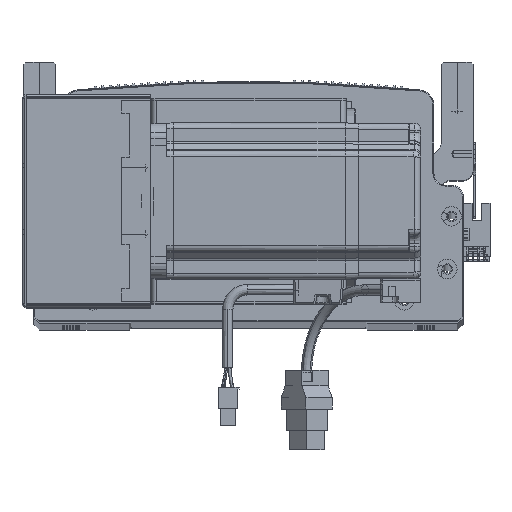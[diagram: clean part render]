
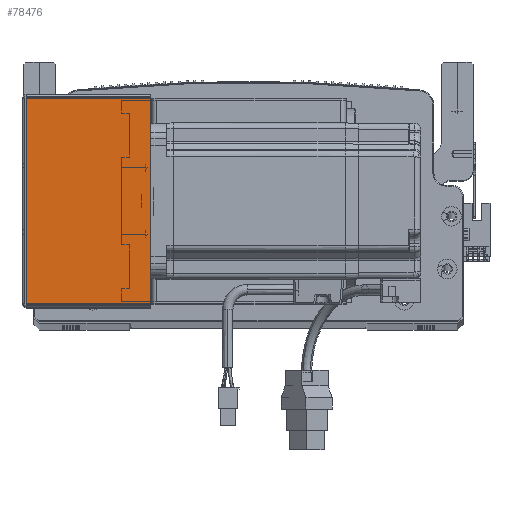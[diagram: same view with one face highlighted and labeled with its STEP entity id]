
A CAD part, top view. The second image highlights one B-rep face of the part: STEP entity #78476.
In plain terms, the highlighted planar face has unit normal (0, 0, 1) as drawn and (0, 0, -1) by its records, which use the part's own axes.
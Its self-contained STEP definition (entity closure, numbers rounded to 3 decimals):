
#808 = LINE ( 'NONE', #86524, #38168 ) ;
#3012 = DIRECTION ( 'NONE',  ( 0., -1., 0. ) ) ;
#4150 = EDGE_CURVE ( 'NONE', #44412, #13625, #66800, .T. ) ;
#9115 = VERTEX_POINT ( 'NONE', #89102 ) ;
#10130 = ORIENTED_EDGE ( 'NONE', *, *, #4150, .F. ) ;
#10805 = CARTESIAN_POINT ( 'NONE',  ( 0.737, 105.293, -205.5 ) ) ;
#11450 = AXIS2_PLACEMENT_3D ( 'NONE', #27507, #68982, #13742 ) ;
#13413 = EDGE_CURVE ( 'NONE', #44412, #9115, #51038, .T. ) ;
#13625 = VERTEX_POINT ( 'NONE', #46460 ) ;
#13742 = DIRECTION ( 'NONE',  ( 1., 0., 0. ) ) ;
#18037 = CARTESIAN_POINT ( 'NONE',  ( 0., 105.293, -205.5 ) ) ;
#18245 = CARTESIAN_POINT ( 'NONE',  ( 0., 0.707, -205.5 ) ) ;
#27507 = CARTESIAN_POINT ( 'NONE',  ( 0., 0., -205.5 ) ) ;
#31271 = VECTOR ( 'NONE', #88023, 1000. ) ;
#31900 = EDGE_CURVE ( 'NONE', #9115, #37218, #808, .T. ) ;
#34613 = EDGE_CURVE ( 'NONE', #13625, #37218, #58603, .T. ) ;
#34918 = VECTOR ( 'NONE', #45852, 1000. ) ;
#37218 = VERTEX_POINT ( 'NONE', #61961 ) ;
#37825 = ORIENTED_EDGE ( 'NONE', *, *, #31900, .T. ) ;
#38168 = VECTOR ( 'NONE', #3012, 1000. ) ;
#44412 = VERTEX_POINT ( 'NONE', #10805 ) ;
#45852 = DIRECTION ( 'NONE',  ( 0., -1., 0. ) ) ;
#46460 = CARTESIAN_POINT ( 'NONE',  ( 0.737, 0.707, -205.5 ) ) ;
#46689 = EDGE_LOOP ( 'NONE', ( #10130, #63877, #37825, #65869 ) ) ;
#51038 = LINE ( 'NONE', #18037, #31271 ) ;
#56383 = VECTOR ( 'NONE', #67354, 1000. ) ;
#58603 = LINE ( 'NONE', #18245, #56383 ) ;
#58739 = CARTESIAN_POINT ( 'NONE',  ( 0.737, 0., -205.5 ) ) ;
#61961 = CARTESIAN_POINT ( 'NONE',  ( 64.5, 0.707, -205.5 ) ) ;
#62473 = PLANE ( 'NONE',  #11450 ) ;
#63877 = ORIENTED_EDGE ( 'NONE', *, *, #13413, .T. ) ;
#65869 = ORIENTED_EDGE ( 'NONE', *, *, #34613, .F. ) ;
#66800 = LINE ( 'NONE', #58739, #34918 ) ;
#67354 = DIRECTION ( 'NONE',  ( 1., 0., 0. ) ) ;
#68982 = DIRECTION ( 'NONE',  ( 0., 0., 1. ) ) ;
#78085 = FACE_OUTER_BOUND ( 'NONE', #46689, .T. ) ;
#78476 = ADVANCED_FACE ( 'NONE', ( #78085 ), #62473, .F. ) ;
#86524 = CARTESIAN_POINT ( 'NONE',  ( 64.5, 0., -205.5 ) ) ;
#88023 = DIRECTION ( 'NONE',  ( 1., 0., 0. ) ) ;
#89102 = CARTESIAN_POINT ( 'NONE',  ( 64.5, 105.293, -205.5 ) ) ;
